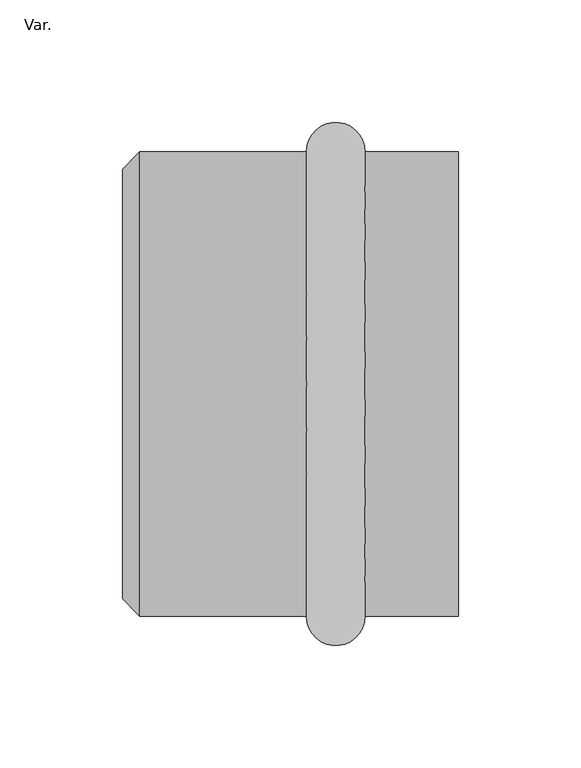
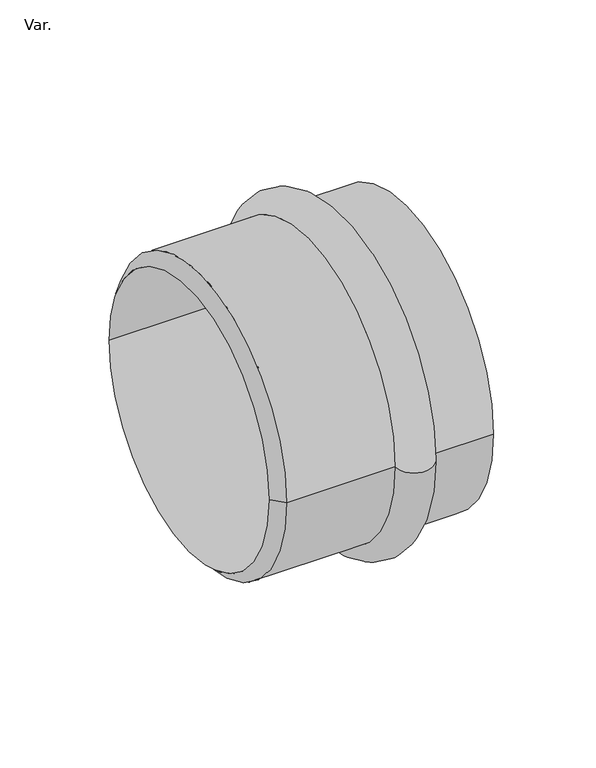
"""IFC4 building model written with IfcOpenShell, lengths in millimetres: pipe fitting geometry, AmancoWavin_UnionesDeTuberia_AwwaC900CampanaA : Var.."""

from ifc_helpers import new_model, si_unit, point, frame, origin, place, context, project, spatial, polyline, circle_curve, ellipse_curve, trimmed, source, transform, mapped, element, save
from ifc_brep_helpers import plane_surface, cylinder_surface, revolved_surface, advanced_brep


def var_bb428cf8(model_context):
    return source(origin(), model_context, "Body", "AdvancedBrep", [
        advanced_brep(
        [(0.0, -94.66, 0.0), (0.0, 94.66, 0.0), (68.0, 94.66, 0.0), (68.0, -94.66, 0.0), (-7.01, -87.65, 0.0), (-7.01, 87.65, 0.0), (130.0, -87.65, 0.0), (130.0, 87.65, 0.0), (130.0, -94.66, 0.0), (130.0, 94.66, 0.0), (92.0, -94.66, 0.0), (92.0, 94.66, 0.0)],
        [
            (0, 1, circle_curve(frame((0.0, 0.0, 0.0), z_axis=(1.0, 0.0, 0.0), x_axis=(0.0, 1.0, 0.0)), 94.66)),
            (1, 2),
            (2, 3, circle_curve(frame((68.0, 0.0, 0.0), z_axis=(-1.0, 0.0, 0.0), x_axis=(0.0, 1.0, 0.0)), 94.66)),
            (3, 0),
            (1, 0, circle_curve(frame((0.0, 0.0, 0.0), z_axis=(1.0, 0.0, 0.0), x_axis=(0.0, 1.0, 0.0)), 94.66)),
            (3, 2, circle_curve(frame((68.0, 0.0, 0.0), z_axis=(-1.0, 0.0, 0.0), x_axis=(0.0, 1.0, 0.0)), 94.66)),
            (4, 5, circle_curve(frame((-7.01, 0.0, 0.0), z_axis=(1.0, 0.0, 0.0), x_axis=(0.0, 1.0, 0.0)), 87.65)),
            (5, 1),
            (0, 4),
            (5, 4, circle_curve(frame((-7.01, 0.0, 0.0), z_axis=(1.0, 0.0, 0.0), x_axis=(0.0, 1.0, 0.0)), 87.65)),
            (6, 7, circle_curve(frame((130.0, 0.0, 0.0), z_axis=(1.0, 0.0, 0.0), x_axis=(0.0, 1.0, 0.0)), 87.65)),
            (7, 5),
            (4, 6),
            (7, 6, circle_curve(frame((130.0, 0.0, 0.0), z_axis=(1.0, 0.0, 0.0), x_axis=(0.0, 1.0, 0.0)), 87.65)),
            (8, 9, circle_curve(frame((130.0, 0.0, 0.0), z_axis=(1.0, 0.0, 0.0), x_axis=(0.0, 1.0, 0.0)), 94.66)),
            (9, 7),
            (6, 8),
            (9, 8, circle_curve(frame((130.0, 0.0, 0.0), z_axis=(1.0, 0.0, 0.0), x_axis=(0.0, 1.0, 0.0)), 94.66)),
            (10, 11, circle_curve(frame((92.0, 0.0, 0.0), z_axis=(1.0, 0.0, 0.0), x_axis=(0.0, 1.0, 0.0)), 94.66)),
            (11, 9),
            (8, 10),
            (11, 10, circle_curve(frame((92.0, 0.0, 0.0), z_axis=(1.0, 0.0, 0.0), x_axis=(0.0, 1.0, 0.0)), 94.66)),
            (2, 11, circle_curve(frame((80.0, 94.66, 0.0), z_axis=(0.0, 0.0, -1.0), x_axis=(1.0, 0.0, 0.0)), 12.0)),
            (10, 3, circle_curve(frame((80.0, -94.66, 0.0), z_axis=(0.0, 0.0, -1.0), x_axis=(1.0, 0.0, 0.0)), 12.0)),
        ],
        [
            cylinder_surface(frame((1950.0, 0.0, 0.0), z_axis=(-1.0, 0.0, 0.0), x_axis=(0.0, 1.0, 0.0)), 94.66),
            revolved_surface(polyline([(0.0, 94.66, 0.0), (-7.01, 87.65, 0.0)]), (1950.0, 0.0, 0.0), (-1.0, 0.0, 0.0)),
            revolved_surface(polyline([(-7.009999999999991, 87.65, 0.0), (130.0, 87.65, 0.0)]), (1950.0, 0.0, 0.0), (-1.0, 0.0, 0.0)),
            plane_surface(frame((130.0, 0.0, 0.0), z_axis=(1.0, 0.0, 0.0), x_axis=(0.0, 1.0, 0.0))),
            revolved_surface(trimmed(ellipse_curve(frame((80.0, 94.66, 0.0), z_axis=(0.0, 0.0, 1.0), x_axis=(1.0, 0.0, 0.0)), 12.0, 12.0), [point((92.0, 94.66, 0.0))], [point((68.0, 94.66, 0.0))], True, "CARTESIAN"), (1950.0, 0.0, 0.0), (-1.0, 0.0, 0.0)),
        ],
        [
            (0, [[1, 2, 3, 4]]),
            (0, [[5, -4, 6, -2]]),
            (1, [[7, 8, -1, 9]]),
            (1, [[10, -9, -5, -8]]),
            (2, [[11, 12, -7, 13]]),
            (2, [[14, -13, -10, -12]]),
            (3, [[15, 16, -11, 17]]),
            (3, [[18, -17, -14, -16]]),
            (0, [[19, 20, -15, 21]]),
            (0, [[22, -21, -18, -20]]),
            (4, [[-3, 23, -19, 24]]),
            (4, [[-6, -24, -22, -23]]),
        ],
    ),
    ])


if __name__ == "__main__":
    model = new_model("IFC4")
    model_context = context("Model", 3, world=origin())
    ifc_project = project(units=[si_unit("LENGTHUNIT", "METRE", prefix="MILLI")], contexts=[model_context])
    site = spatial("IfcSite", under=ifc_project)
    building = spatial("IfcBuilding", under=site)
    placement = place(None, origin())
    var_shape = var_bb428cf8(model_context)
    element("IfcPipeFitting", 1, ObjectType="AmancoWavin_UnionesDeTuberia_AwwaC900CampanaA : Var.", at=placement, inside=building, context=model_context, shape_type="MappedRepresentation", body=[
        mapped(var_shape, transform((0.0, 0.0, 0.0), x_axis=(1.0, 0.0, 0.0), y_axis=(0.0, 1.0, 0.0), z_axis=(0.0, 0.0, 1.0))),
    ])
    save(model, "model.ifc")
